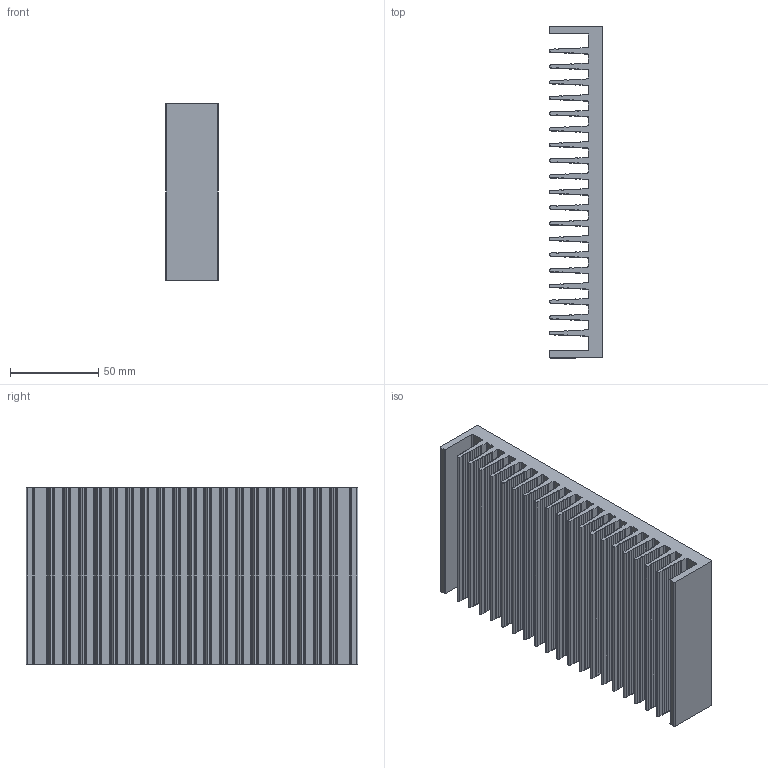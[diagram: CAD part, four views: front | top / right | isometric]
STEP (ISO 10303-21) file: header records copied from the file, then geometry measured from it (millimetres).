
FILE_DESCRIPTION (( 'STEP AP214' ), '1' );
FILE_NAME ('PR371.STEP', '2013-06-13T17:45:42', ( '' ), ( '' ), 'SwSTEP 2.0', 'SolidWorks 2013', '' );
FILE_SCHEMA (( 'AUTOMOTIVE_DESIGN' ));
Length unit declared in the file: millimetre
Products named in the file (1): PR371
Bounding box: 30 x 188 x 100 mm (x, y, z)
Volume: 273220 mm3; surface area: 132020.5 mm2
Topology: 1 solids, 1 shells, 607 faces, 1815 edges, 1210 vertices
Faces by surface type: cylinder 502, plane 105
Entity records: 21027 total; most frequent: DIRECTION 4035, CARTESIAN_POINT 3633, ORIENTED_EDGE 3630, EDGE_CURVE 1815, AXIS2_PLACEMENT_3D 1612, VERTEX_POINT 1210, CIRCLE 1004, LINE 811
